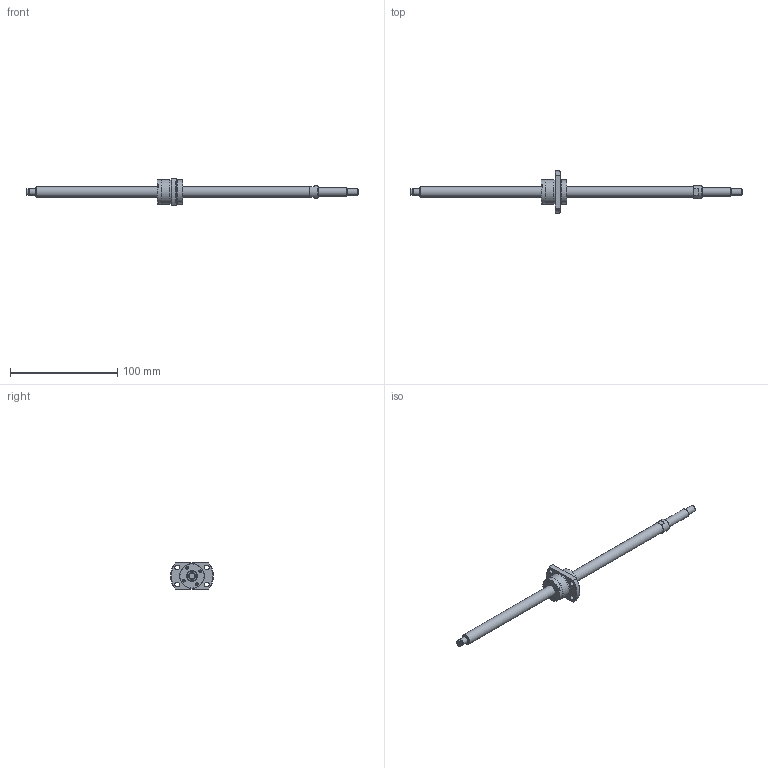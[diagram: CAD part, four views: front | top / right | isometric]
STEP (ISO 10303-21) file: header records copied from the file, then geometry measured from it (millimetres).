
FILE_DESCRIPTION(/* description */ ('STEP AP214'),/* implementation_level */ '2;1');
FILE_NAME(/* name */ 'SG1010-251R310C5B0X(113.5)',/* time_stamp */ '2026-07-24T15:17:25+02:00',/* author */ ('License CC BY-ND 4.0'),/* organization */ ('CADENAS'),/* preprocessor_version */ 'ST-DEVELOPER v20',/* originating_system */ 'PARTsolutions',/* authorisation */ ' ');
FILE_SCHEMA (('AUTOMOTIVE_DESIGN {1 0 10303 214 3 1 1}'));
Length unit declared in the file: millimetre
Products named in the file (3): SG1010-251R310C5B0X(113.5); SG1010-251R310C5B_shaft; SG1010 C5_nut
Assembly tree (2 placements, depth 2):
  SG1010-251R310C5B0X(113.5)
    SG1010-251R310C5B_shaft
    SG1010 C5_nut
Bounding box: 310 x 40 x 25 mm (x, y, z)
Volume: 32908.4 mm3; surface area: 14174.2 mm2
Topology: 2 solids, 2 shells, 107 faces, 242 edges, 157 vertices
Faces by surface type: plane 66, cylinder 27, cone 13, torus 1
Full cylindrical faces by diameter (mm): 2.25 x2, 2.5 x2, 4.5 x4, 5.7 x1, 6 x3, 8 x1, 10 x2, 11.5 x1, 22.5 x3, 23 x2
Entity records: 2921 total; most frequent: DIRECTION 500, CARTESIAN_POINT 498, ORIENTED_EDGE 418, EDGE_CURVE 209, AXIS2_PLACEMENT_3D 189, EDGE_LOOP 166, FACE_BOUND 166, VERTEX_POINT 155
